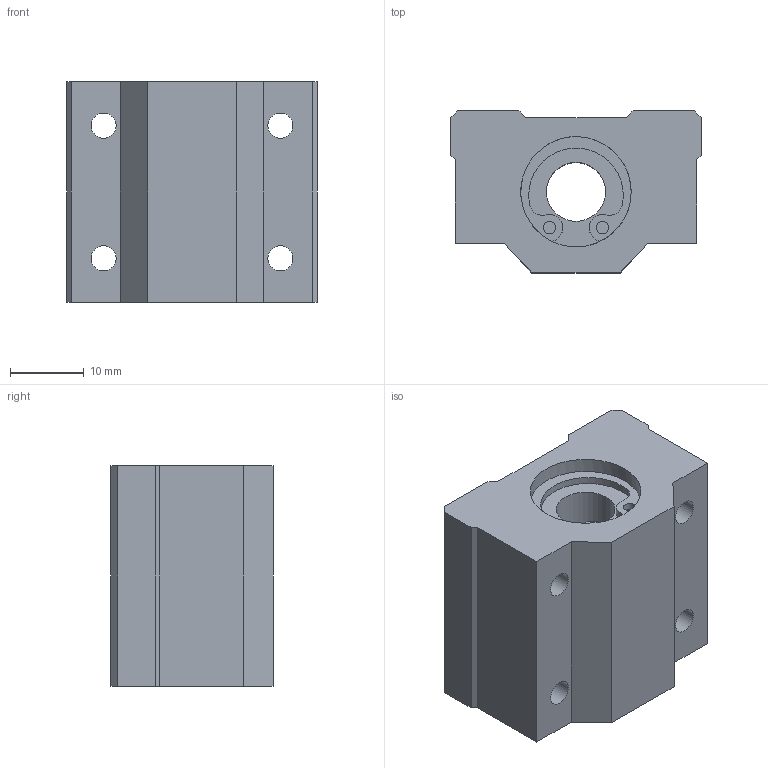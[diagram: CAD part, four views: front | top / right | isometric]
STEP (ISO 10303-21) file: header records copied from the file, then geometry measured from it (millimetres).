
FILE_DESCRIPTION(('STEP AP203'),'1');
FILE_NAME('//192.168.1.1/share/s-4 技術開発/s-4-4_CAD/s-4-4-3_見直し済み/008 修正済み/LC-A/LC-A_TOP/LC-8VAUU.step','2022-05-19T01:39:12',(' '),(' '),'Spatial InterOp 3D',' ',' ');
FILE_SCHEMA(('CONFIG_CONTROL_DESIGN'));
Length unit declared in the file: millimetre
Products named in the file (1): 1
Bounding box: 34 x 22 x 30 mm (x, y, z)
Volume: 16559.8 mm3; surface area: 5986.7 mm2
Topology: 1 solids, 1 shells, 61 faces, 161 edges, 108 vertices
Faces by surface type: plane 32, cylinder 29
Full cylindrical faces by diameter (mm): 1.7 x4, 3.4 x8, 8 x1, 15 x2
Entity records: 1824 total; most frequent: DIRECTION 318, CARTESIAN_POINT 300, ORIENTED_EDGE 276, EDGE_CURVE 138, AXIS2_PLACEMENT_3D 118, VERTEX_POINT 100, EDGE_LOOP 92, LINE 82
